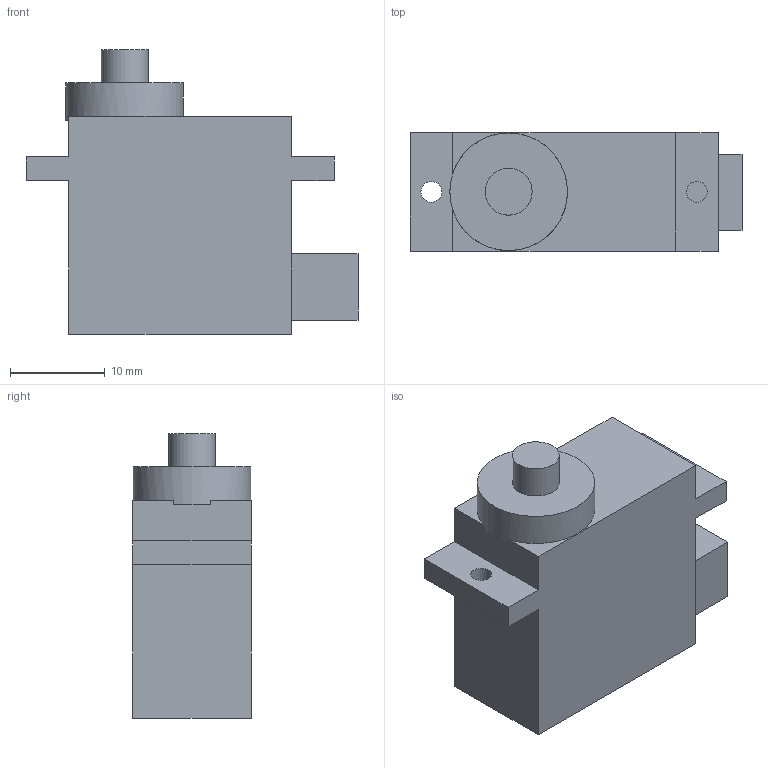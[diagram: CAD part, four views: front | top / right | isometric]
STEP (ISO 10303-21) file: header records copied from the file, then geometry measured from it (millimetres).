
FILE_DESCRIPTION(('Open CASCADE Model'),'2;1');
FILE_NAME('Open CASCADE Shape Model','2026-11-23T18:10:06',('Author'),( 'Open CASCADE'),'Open CASCADE STEP processor 8.0','build123d', 'Unknown');
FILE_SCHEMA(('AUTOMOTIVE_DESIGN { 1 0 10303 214 1 1 1 1 }'));
Length unit declared in the file: millimetre
Products named in the file (1): SOLID
Bounding box: 35 x 12.5 x 30 mm (x, y, z)
Volume: 7900.9 mm3; surface area: 2935.2 mm2
Topology: 1 solids, 1 shells, 26 faces, 66 edges, 44 vertices
Faces by surface type: plane 22, cylinder 4
Full cylindrical faces by diameter (mm): 2.2 x2, 4.95 x1, 12.4 x1
Entity records: 1634 total; most frequent: CARTESIAN_POINT 291, DIRECTION 240, LINE 156, VECTOR 156, ORIENTED_EDGE 132, PCURVE 132, DEFINITIONAL_REPRESENTATION 132, EDGE_CURVE 66
